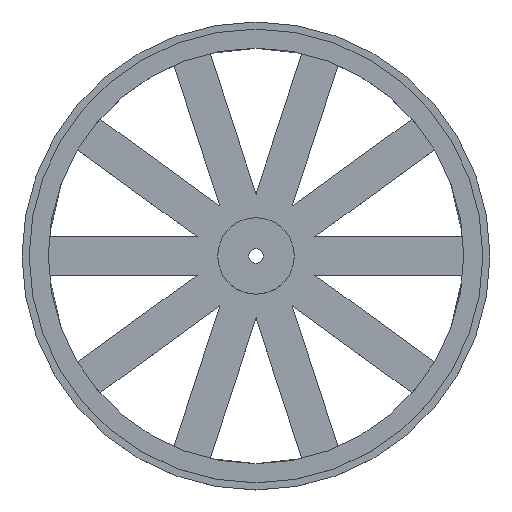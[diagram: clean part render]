
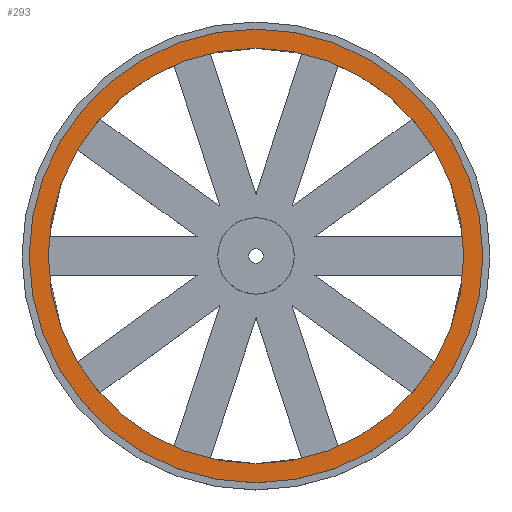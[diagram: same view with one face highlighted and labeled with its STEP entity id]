
A CAD part, top view. The second image highlights one B-rep face of the part: STEP entity #293.
In plain terms, the highlighted planar face has unit normal (0, 0, 1).
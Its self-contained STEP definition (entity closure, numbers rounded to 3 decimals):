
#227 = CYLINDRICAL_SURFACE('',#228,47.5);
#228 = AXIS2_PLACEMENT_3D('',#229,#230,#231);
#229 = CARTESIAN_POINT('',(0.,0.,0.));
#230 = DIRECTION('',(-0.,-0.,-1.));
#231 = DIRECTION('',(1.,0.,0.));
#244 = VERTEX_POINT('',#245);
#245 = CARTESIAN_POINT('',(47.5,0.,12.));
#266 = EDGE_CURVE('',#244,#244,#267,.T.);
#267 = SURFACE_CURVE('',#268,(#273,#280),.PCURVE_S1.);
#268 = CIRCLE('',#269,47.5);
#269 = AXIS2_PLACEMENT_3D('',#270,#271,#272);
#270 = CARTESIAN_POINT('',(0.,0.,12.));
#271 = DIRECTION('',(0.,0.,1.));
#272 = DIRECTION('',(1.,0.,0.));
#273 = PCURVE('',#227,#274);
#274 = DEFINITIONAL_REPRESENTATION('',(#275),#279);
#275 = LINE('',#276,#277);
#276 = CARTESIAN_POINT('',(-0.,-12.));
#277 = VECTOR('',#278,1.);
#278 = DIRECTION('',(-1.,0.));
#279 = ( GEOMETRIC_REPRESENTATION_CONTEXT(2) 
PARAMETRIC_REPRESENTATION_CONTEXT() REPRESENTATION_CONTEXT('2D SPACE',''
  ) );
#280 = PCURVE('',#281,#286);
#281 = PLANE('',#282);
#282 = AXIS2_PLACEMENT_3D('',#283,#284,#285);
#283 = CARTESIAN_POINT('',(0.,0.,12.));
#284 = DIRECTION('',(0.,0.,1.));
#285 = DIRECTION('',(1.,0.,-0.));
#286 = DEFINITIONAL_REPRESENTATION('',(#287),#291);
#287 = CIRCLE('',#288,47.5);
#288 = AXIS2_PLACEMENT_2D('',#289,#290);
#289 = CARTESIAN_POINT('',(0.,0.));
#290 = DIRECTION('',(1.,0.));
#291 = ( GEOMETRIC_REPRESENTATION_CONTEXT(2) 
PARAMETRIC_REPRESENTATION_CONTEXT() REPRESENTATION_CONTEXT('2D SPACE',''
  ) );
#293 = ADVANCED_FACE('',(#294,#297),#281,.T.);
#294 = FACE_BOUND('',#295,.T.);
#295 = EDGE_LOOP('',(#296));
#296 = ORIENTED_EDGE('',*,*,#266,.T.);
#297 = FACE_BOUND('',#298,.T.);
#298 = EDGE_LOOP('',(#299));
#299 = ORIENTED_EDGE('',*,*,#300,.F.);
#300 = EDGE_CURVE('',#301,#301,#303,.T.);
#301 = VERTEX_POINT('',#302);
#302 = CARTESIAN_POINT('',(43.5,0.,12.));
#303 = SURFACE_CURVE('',#304,(#309,#316),.PCURVE_S1.);
#304 = CIRCLE('',#305,43.5);
#305 = AXIS2_PLACEMENT_3D('',#306,#307,#308);
#306 = CARTESIAN_POINT('',(0.,0.,12.));
#307 = DIRECTION('',(0.,0.,1.));
#308 = DIRECTION('',(1.,0.,0.));
#309 = PCURVE('',#281,#310);
#310 = DEFINITIONAL_REPRESENTATION('',(#311),#315);
#311 = CIRCLE('',#312,43.5);
#312 = AXIS2_PLACEMENT_2D('',#313,#314);
#313 = CARTESIAN_POINT('',(0.,0.));
#314 = DIRECTION('',(1.,0.));
#315 = ( GEOMETRIC_REPRESENTATION_CONTEXT(2) 
PARAMETRIC_REPRESENTATION_CONTEXT() REPRESENTATION_CONTEXT('2D SPACE',''
  ) );
#316 = PCURVE('',#317,#322);
#317 = CYLINDRICAL_SURFACE('',#318,43.5);
#318 = AXIS2_PLACEMENT_3D('',#319,#320,#321);
#319 = CARTESIAN_POINT('',(0.,0.,0.));
#320 = DIRECTION('',(-0.,-0.,-1.));
#321 = DIRECTION('',(1.,0.,0.));
#322 = DEFINITIONAL_REPRESENTATION('',(#323),#327);
#323 = LINE('',#324,#325);
#324 = CARTESIAN_POINT('',(-0.,-12.));
#325 = VECTOR('',#326,1.);
#326 = DIRECTION('',(-1.,0.));
#327 = ( GEOMETRIC_REPRESENTATION_CONTEXT(2) 
PARAMETRIC_REPRESENTATION_CONTEXT() REPRESENTATION_CONTEXT('2D SPACE',''
  ) );
